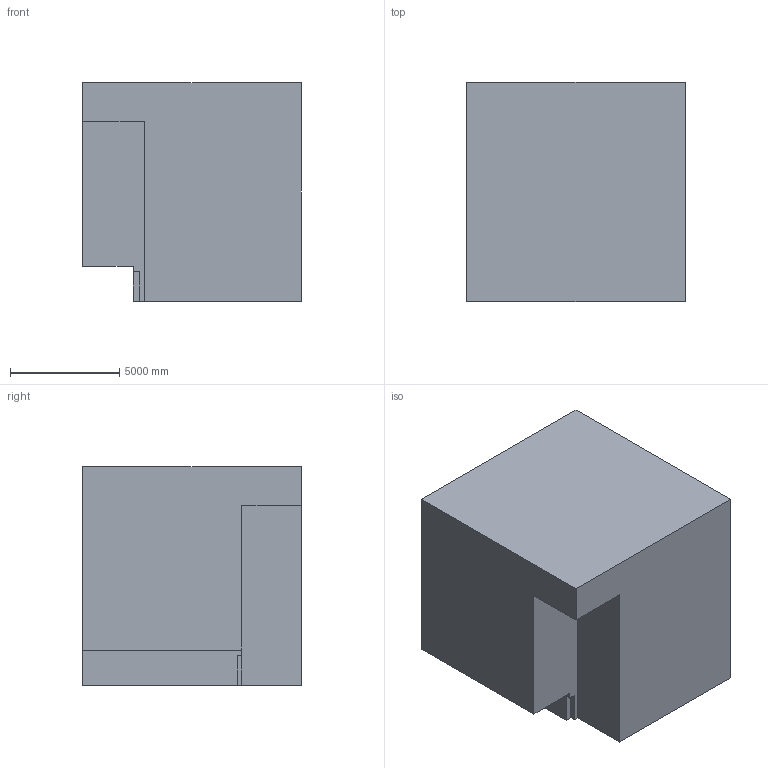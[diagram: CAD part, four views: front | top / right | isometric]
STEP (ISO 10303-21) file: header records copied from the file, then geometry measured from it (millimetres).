
FILE_DESCRIPTION (( 'STEP AP203' ), '1' );
FILE_NAME ('201.STEP', '2022-07-28T13:53:15', ( 'user' ), ( '' ), 'SwSTEP 2.0', 'SolidWorks 2021', '' );
FILE_SCHEMA (( 'CONFIG_CONTROL_DESIGN' ));
Length unit declared in the file: centimetre
Products named in the file (1): 201
Bounding box: 10000 x 10000 x 10000 mm (x, y, z)
Volume: 909611691401 mm3; surface area: 592533885.3 mm2
Topology: 1 solids, 1 shells, 14 faces, 36 edges, 24 vertices
Faces by surface type: plane 14
Entity records: 497 total; most frequent: CARTESIAN_POINT 75, ORIENTED_EDGE 72, DIRECTION 66, LINE 36, EDGE_CURVE 36, VECTOR 36, VERTEX_POINT 24, AXIS2_PLACEMENT_3D 15
